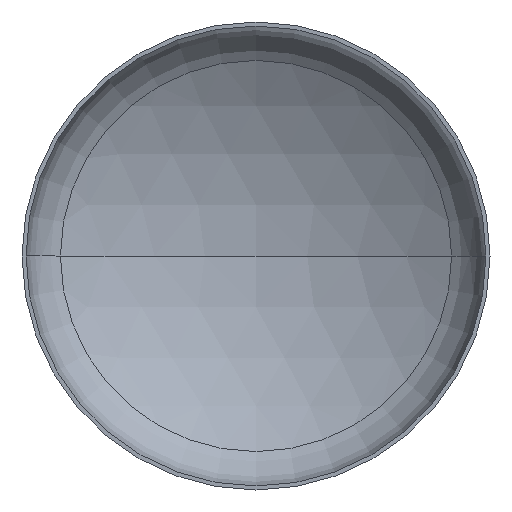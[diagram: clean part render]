
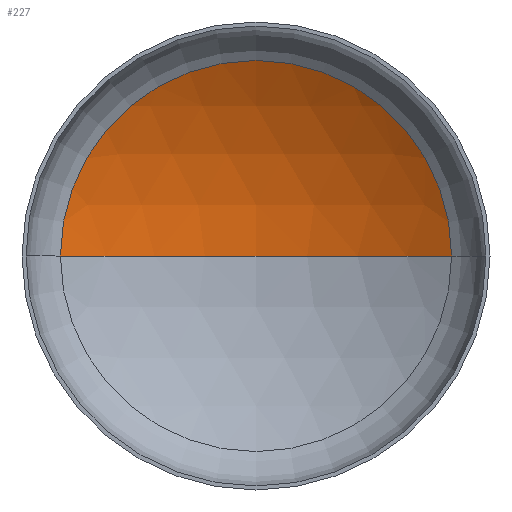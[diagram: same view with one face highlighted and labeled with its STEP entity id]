
A CAD part, front view. The second image highlights one B-rep face of the part: STEP entity #227.
In plain terms, the highlighted spherical face has radius 4000 mm.
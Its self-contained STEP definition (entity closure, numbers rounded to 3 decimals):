
#7 = EDGE_LOOP ( 'NONE', ( #15, #128, #107 ) ) ;
#15 = ORIENTED_EDGE ( 'NONE', *, *, #249, .F. ) ;
#23 = DIRECTION ( 'NONE',  ( 1., 0., 0. ) ) ;
#25 = CIRCLE ( 'NONE', #154, 2089.164 ) ;
#29 = VERTEX_POINT ( 'NONE', #254 ) ;
#98 = VERTEX_POINT ( 'NONE', #335 ) ;
#107 = ORIENTED_EDGE ( 'NONE', *, *, #232, .T. ) ;
#109 = CARTESIAN_POINT ( 'NONE',  ( 0., 786.631, 0. ) ) ;
#128 = ORIENTED_EDGE ( 'NONE', *, *, #237, .T. ) ;
#142 = AXIS2_PLACEMENT_3D ( 'NONE', #312, #176, #198 ) ;
#148 = AXIS2_PLACEMENT_3D ( 'NONE', #389, #339, #293 ) ;
#150 = VERTEX_POINT ( 'NONE', #338 ) ;
#154 = AXIS2_PLACEMENT_3D ( 'NONE', #109, #360, #23 ) ;
#164 = AXIS2_PLACEMENT_3D ( 'NONE', #330, #345, #356 ) ;
#176 = DIRECTION ( 'NONE',  ( 0., 0., 1. ) ) ;
#198 = DIRECTION ( 'NONE',  ( 1., 0., 0. ) ) ;
#227 = ADVANCED_FACE ( 'NONE', ( #372 ), #235, .F. ) ;
#230 = CIRCLE ( 'NONE', #142, 4000. ) ;
#232 = EDGE_CURVE ( 'NONE', #150, #29, #25, .T. ) ;
#235 = SPHERICAL_SURFACE ( 'NONE', #164, 4000. ) ;
#237 = EDGE_CURVE ( 'NONE', #98, #150, #358, .T. ) ;
#249 = EDGE_CURVE ( 'NONE', #98, #29, #230, .T. ) ;
#254 = CARTESIAN_POINT ( 'NONE',  ( -2089.164, 786.631, 0. ) ) ;
#293 = DIRECTION ( 'NONE',  ( -1., 0., 0. ) ) ;
#312 = CARTESIAN_POINT ( 'NONE',  ( 0., -2624.438, 0. ) ) ;
#330 = CARTESIAN_POINT ( 'NONE',  ( 0., -2624.438, 0. ) ) ;
#335 = CARTESIAN_POINT ( 'NONE',  ( 0., 1375.562, 0. ) ) ;
#338 = CARTESIAN_POINT ( 'NONE',  ( 2089.164, 786.631, 0. ) ) ;
#339 = DIRECTION ( 'NONE',  ( 0., 0., -1. ) ) ;
#345 = DIRECTION ( 'NONE',  ( 0., 0., -1. ) ) ;
#356 = DIRECTION ( 'NONE',  ( -1., 0., 0. ) ) ;
#358 = CIRCLE ( 'NONE', #148, 4000. ) ;
#360 = DIRECTION ( 'NONE',  ( 0., -1., 0. ) ) ;
#372 = FACE_OUTER_BOUND ( 'NONE', #7, .T. ) ;
#389 = CARTESIAN_POINT ( 'NONE',  ( 0., -2624.438, 0. ) ) ;
